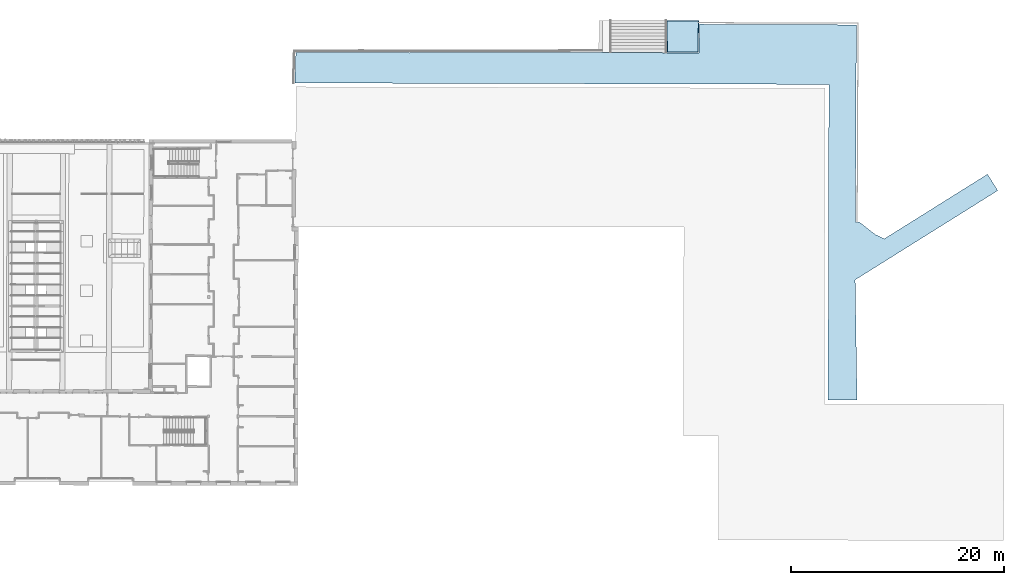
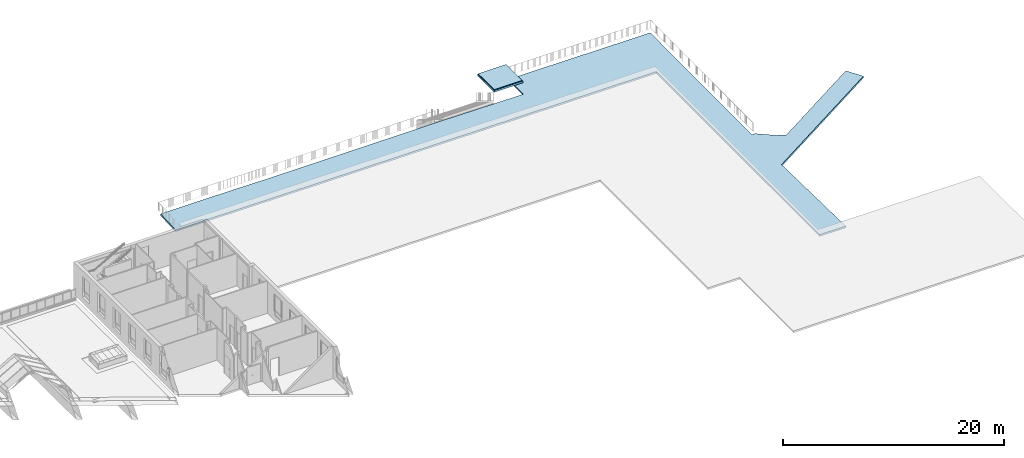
# One storey, part 40 of 101: 3 slabs.
"""IFC2X3 building model written with IfcOpenShell, lengths in metres."""

from ifc_helpers import new_model, entity, si_unit, converted_unit, derived_unit, direction, frame, origin, place, context, subcontext, project, spatial, polyline, outline, extrude, material, layer, layer_set, layer_usage, type_object, element, save


model = new_model("IFC2X3")

# Units and contexts
model_context = context("Model", 3, precision=1e-05, world=origin(), true_north=direction((6.123233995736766e-17, 1.0)))
body_context = subcontext(model_context, "Body", "Model", "MODEL_VIEW")
ifc_project = project(units=[si_unit("LENGTHUNIT", "METRE"), si_unit("AREAUNIT", "SQUARE_METRE"), converted_unit("PLANEANGLEUNIT", "DEGREE", entity("IfcPlaneAngleMeasure", 0.017453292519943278), si_unit("PLANEANGLEUNIT", "RADIAN"), dimensions=[0, 0, 0, 0, 0, 0, 0]), derived_unit("THERMALTRANSMITTANCEUNIT", [(si_unit("MASSUNIT", "GRAM", prefix="KILO"), 1), (si_unit("THERMODYNAMICTEMPERATUREUNIT", "KELVIN"), -1), (si_unit("TIMEUNIT", "SECOND"), -3)])], contexts=[model_context])

# Site, building, storey
site_placement = place(None, frame((1253.6752467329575, 2072.143113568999, 91.49999999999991), z_axis=(0.0, 0.0, 1.0), x_axis=(0.7237211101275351, 0.6900925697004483, 0.0)))
site = spatial("IfcSite", under=ifc_project, at=site_placement, Name="Surface", CompositionType="ELEMENT")
building_placement = place(site_placement, origin())
building = spatial("IfcBuilding", under=site, at=building_placement, CompositionType="ELEMENT")
storey_placement = place(building_placement, origin())
storey = spatial("IfcBuildingStorey", under=building, at=storey_placement, Name="0- Rdc", CompositionType="ELEMENT", Elevation=-5.764692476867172e-13)

# Slabs
ifc_material = material(Name="OMD_Béton blanc")
ifc_layer = layer(ifc_material, 0.2)
ifc_layer_set = layer_set([ifc_layer], Name="Sol:Dalle 20")
ifc_layer_usage_1 = layer_usage(ifc_layer_set, "AXIS3", "POSITIVE", 0.0)
slab_type = type_object("IfcSlabType", Name="Sol:Dalle 20", PredefinedType="FLOOR", material=ifc_layer_set)
slab_1_placement = place(storey_placement, origin())
element("IfcSlab", 1, at=slab_1_placement, inside=storey, type_object=slab_type, material=ifc_layer_usage_1, Name="Sol:Dalle 20", ObjectType="Sol:Dalle 20", PredefinedType="FLOOR", context=body_context, shape_type="SweptSolid", body=[
    extrude(outline(polyline([(-1.5099986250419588, -1.5050121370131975), (1.5175687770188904, -1.5050121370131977), (1.492005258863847, 1.5061809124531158), (-1.4995754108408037, 1.503843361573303), (-1.5099986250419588, -1.5050121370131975)])), frame((234.56595751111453, -24.147570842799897, 0.4999999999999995), z_axis=(0.0, 0.0, -1.0), x_axis=(0.7252700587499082, -0.6884644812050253, 0.0)), (0.0, 0.0, 1.0), 0.19999999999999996),
])
ifc_layer_usage_2 = layer_usage(ifc_layer_set, "AXIS3", "POSITIVE", 0.0)
slab_2_placement = place(storey_placement, origin())
element("IfcSlab", 2, at=slab_2_placement, inside=storey, type_object=slab_type, material=ifc_layer_usage_2, Name="Sol:Dalle 20", ObjectType="Sol:Dalle 20", PredefinedType="FLOOR", context=body_context, shape_type="SweptSolid", body=[
    extrude(outline(polyline([(-1.459824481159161, -1.4550121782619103), (1.467143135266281, -1.4550121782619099), (1.442428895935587, 1.4561421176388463), (-1.4497475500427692, 1.4538822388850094), (-1.459824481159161, -1.4550121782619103)])), frame((234.56595702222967, -24.147570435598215, 0.55), z_axis=(0.0, 0.0, -1.0), x_axis=(0.7252700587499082, -0.6884644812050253, 0.0)), (0.0, 0.0, 1.0), 0.2),
])
ifc_layer_usage_3 = layer_usage(ifc_layer_set, "AXIS3", "POSITIVE", 0.0)
slab_3_placement = place(storey_placement, origin())
element("IfcSlab", 3, at=slab_3_placement, inside=storey, type_object=slab_type, material=ifc_layer_usage_3, Name="Sol:Dalle 20", ObjectType="Sol:Dalle 20", PredefinedType="FLOOR", context=body_context, shape_type="SweptSolid", body=[
    extrude(outline(polyline([(9.830409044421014, -2.4874442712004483), (12.538291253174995, -2.487444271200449), (12.57511139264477, 12.270486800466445), (-5.944434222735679, 12.298073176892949), (-5.943912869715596, 12.648072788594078), (-7.112356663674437, 14.158979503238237), (-7.515131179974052, 15.008316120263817), (-1.3836192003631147, 24.671337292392), (-2.915879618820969, 25.643105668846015), (-11.379989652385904, 12.304001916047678), (-22.68657438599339, 12.55244864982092), (-22.696500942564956, 9.823383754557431), (6.963408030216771, 9.715500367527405), (6.780950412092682, -40.44677664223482), (9.651612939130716, -40.373143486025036), (9.699287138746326, -34.04886443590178), (9.689577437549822, -29.6743952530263), (9.849751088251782, -11.575637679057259), (9.830409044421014, -2.4874442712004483)])), frame((229.57602865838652, -35.13514780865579, -0.9400000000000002), z_axis=(0.0, 0.0, -1.0), x_axis=(0.694596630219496, 0.7193994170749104, 0.0)), (0.0, 0.0, 1.0), 0.19999999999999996),
])

save(model, "model.ifc")
